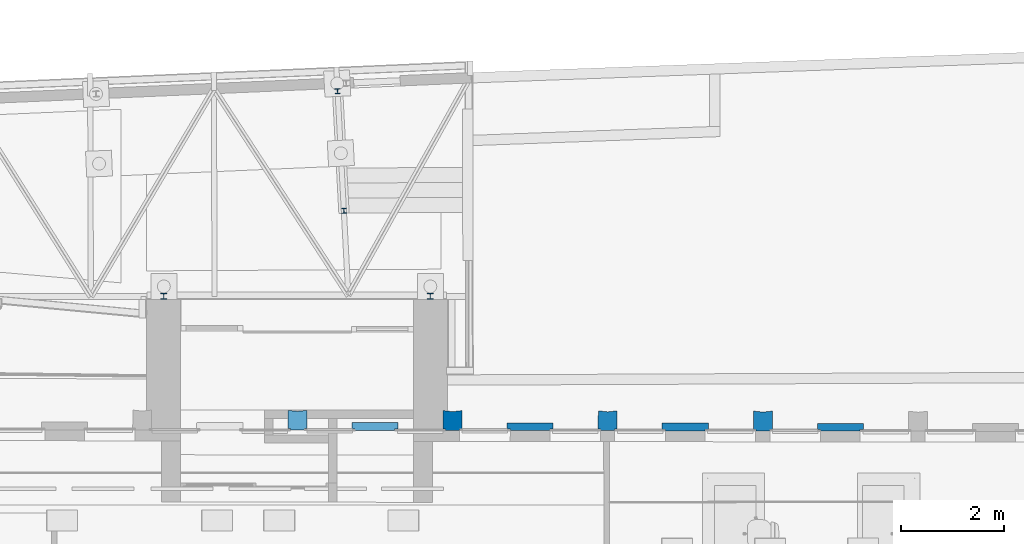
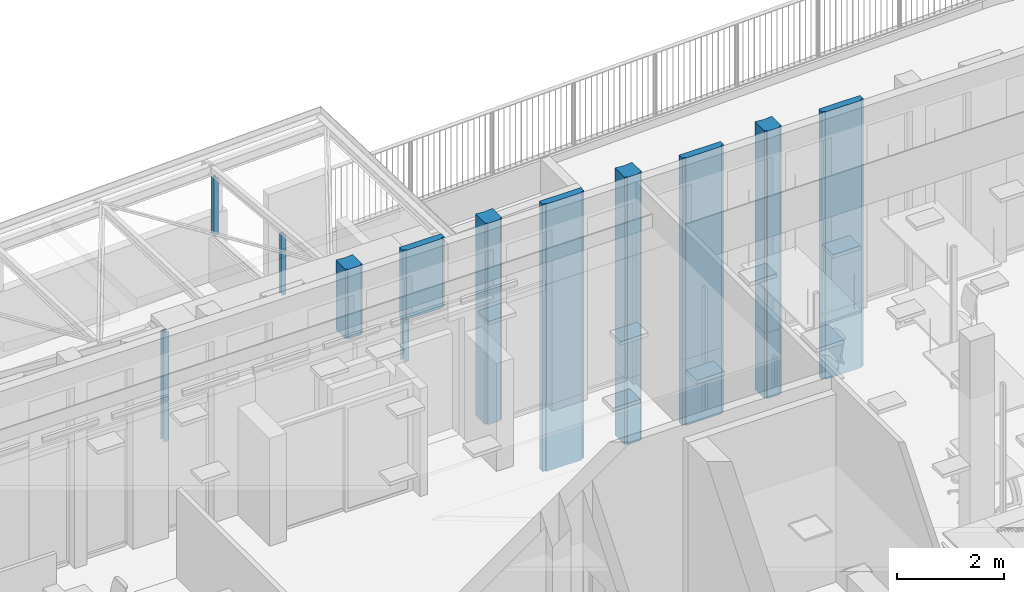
# One storey, part 3 of 128: 17 columns.
"""IFC2X3 building model written with IfcOpenShell, lengths in metres."""

import ifcopenshell
import ifcopenshell.guid

model = None  # the IFC model being written
_history = None  # IfcOwnerHistory: only IFC2X3 demands one
_inside = {}  # id of a spatial element -> (the spatial element, [elements in it])
_under = {}  # id of a project, library or spatial element -> (it, [spatial elements below it])
_declared = {}  # id of a project -> (the project, [libraries it declares])
_typed = {}  # id of a type object -> (the type object, [elements of that type])
_made_of = {}  # id of a material, layer set ... -> (it, [elements and type objects made of it])


def new_model(schema):
    """Start an empty IFC model of exactly this schema.

    Asked for "IFC4X3", IfcOpenShell would pick the latest addendum, in which some entities
    have other attributes; the version numbers below select the first issue.
    IFC2X3 requires an IfcOwnerHistory on every rooted entity: one is made here for all.
    """
    global model, _history
    if schema == "IFC4X3":
        model = ifcopenshell.file(schema_version=(4, 3, 0, 0))
    else:
        model = ifcopenshell.file(schema=schema)
    _inside.clear()
    _under.clear()
    _declared.clear()
    _typed.clear()
    _made_of.clear()
    _history = None
    if model.schema == "IFC2X3":
        org = make("IfcOrganization", Name="unknown")
        user = make(
            "IfcPersonAndOrganization",
            ThePerson=make("IfcPerson", FamilyName="unknown"),
            TheOrganization=org,
        )
        app = make(
            "IfcApplication",
            ApplicationDeveloper=org,
            Version="unknown",
            ApplicationFullName="unknown",
            ApplicationIdentifier="unknown",
        )
        _history = make(
            "IfcOwnerHistory",
            OwningUser=user,
            OwningApplication=app,
            ChangeAction="ADDED",
            CreationDate=0,
        )
    return model


def make(cls, **values):
    """One entity of the class cls with the attributes given. An attribute that is None is left unset."""
    return model.create_entity(
        cls, **{name: value for name, value in values.items() if value is not None}
    )


def entity(cls, *values):
    """Any entity or typed value of the class cls, its attributes in the order of the schema. None: left unset."""
    e = model.create_entity(cls)
    for i, value in enumerate(values):
        if value is not None:
            e[i] = value
    return e


def rooted(cls, **values):
    """An entity with a GlobalId (a new one), such as an element, a storey or a relation."""
    return make(cls, GlobalId=ifcopenshell.guid.new(), OwnerHistory=_history, **values)


def si_unit(unit_type, name, prefix=None):
    """IfcSIUnit, for example si_unit("LENGTHUNIT", "METRE", prefix="MILLI")."""
    return make("IfcSIUnit", UnitType=unit_type, Prefix=prefix, Name=name)


def converted_unit(unit_type, name, factor, base, dimensions=None, offset=None):
    """IfcConversionBasedUnit, such as the inch: factor (a typed value) times the base unit."""
    return make(
        "IfcConversionBasedUnit"
        if offset is None
        else "IfcConversionBasedUnitWithOffset",
        ConversionOffset=offset,
        Dimensions=None
        if dimensions is None
        else entity("IfcDimensionalExponents", *dimensions),
        UnitType=unit_type,
        Name=name,
        ConversionFactor=make(
            "IfcMeasureWithUnit", ValueComponent=factor, UnitComponent=base
        ),
    )


def derived_unit(unit_type, elements):
    """IfcDerivedUnit: a product of units, each with its exponent."""
    return make(
        "IfcDerivedUnit",
        Elements=[
            make("IfcDerivedUnitElement", Unit=unit, Exponent=power)
            for unit, power in elements
        ],
        UnitType=unit_type,
    )


def assignment(units):
    """IfcUnitAssignment: the units of a project."""
    return None if units is None else make("IfcUnitAssignment", Units=units)


def point(xyz):
    """IfcCartesianPoint."""
    return None if xyz is None else make("IfcCartesianPoint", Coordinates=xyz)


def direction(xyz):
    """IfcDirection."""
    return None if xyz is None else make("IfcDirection", DirectionRatios=xyz)


def frame(location, z_axis=None, x_axis=None):
    """IfcAxis2Placement3D, a coordinate frame: its origin and axes. An axis left out is left unset."""
    return make(
        "IfcAxis2Placement3D",
        Location=point(location),
        Axis=direction(z_axis),
        RefDirection=direction(x_axis),
    )


def frame_2d(location, x_axis=None):
    """IfcAxis2Placement2D, a coordinate frame in the plane: its origin and x axis."""
    return make(
        "IfcAxis2Placement2D", Location=point(location), RefDirection=direction(x_axis)
    )


def origin():
    """The frame at (0, 0, 0) with its axes left unset."""
    return frame((0.0, 0.0, 0.0))


def origin_2d_with_axis():
    """The frame at (0, 0) in the plane with the x axis (1, 0) written out."""
    return frame_2d((0.0, 0.0), x_axis=(1.0, 0.0))


def place(relative_to, where):
    """IfcLocalPlacement: puts the frame where relative to a parent placement (None: the world)."""
    return make(
        "IfcLocalPlacement", PlacementRelTo=relative_to, RelativePlacement=where
    )


def context(
    kind, dimensions, precision=None, world=None, true_north=None, identifier=None
):
    """IfcGeometricRepresentationContext, for example the 3D "Model" context."""
    return make(
        "IfcGeometricRepresentationContext",
        ContextIdentifier=identifier,
        ContextType=kind,
        CoordinateSpaceDimension=dimensions,
        Precision=precision,
        WorldCoordinateSystem=world,
        TrueNorth=true_north,
    )


def subcontext(parent, identifier, kind, view, scale=None):
    """IfcGeometricRepresentationSubContext, for example "Body" below "Model"."""
    return make(
        "IfcGeometricRepresentationSubContext",
        ContextIdentifier=identifier,
        ContextType=kind,
        ParentContext=parent,
        TargetScale=scale,
        TargetView=view,
    )


def project(units=None, contexts=None):
    """IfcProject with its units and contexts."""
    return rooted(
        "IfcProject",
        Name="project",
        RepresentationContexts=contexts,
        UnitsInContext=assignment(units),
    )


def spatial(cls, under=None, at=None, **own):
    """A site, building, storey or space (cls), placed at a placement, below another one or the project."""
    s = rooted(cls, ObjectPlacement=at, **own)
    if under is not None:
        _under.setdefault(under.id(), (under, []))[1].append(s)
    return s


def polyline(points):
    """IfcPolyline through the points."""
    return make("IfcPolyline", Points=[point(p) for p in points])


def profile(cls, at=None, kind="AREA", **sizes):
    """A parametric profile (cls). Its sizes go by their IFC names, for example OverallWidth=200.0."""
    return make(cls, ProfileType=kind, Position=at, **sizes)


def i_section(**sizes):
    """IfcIShapeProfileDef."""
    return profile("IfcIShapeProfileDef", **sizes)


def outline(outer, holes=None, kind="AREA"):
    """IfcArbitraryClosedProfileDef: a profile drawn as a closed curve; with holes, ...WithVoids."""
    if holes is None:
        return make("IfcArbitraryClosedProfileDef", ProfileType=kind, OuterCurve=outer)
    return make(
        "IfcArbitraryProfileDefWithVoids",
        ProfileType=kind,
        OuterCurve=outer,
        InnerCurves=holes,
    )


def extrude(swept, where, along, depth):
    """IfcExtrudedAreaSolid: the profile swept, set in the frame where, extruded along a direction by depth."""
    return make(
        "IfcExtrudedAreaSolid",
        SweptArea=swept,
        Position=where,
        ExtrudedDirection=direction(along),
        Depth=depth,
    )


def shape(context_of_items, identifier, shape_type, items):
    """IfcShapeRepresentation: the items that make up one representation, for example the "Body"."""
    return make(
        "IfcShapeRepresentation",
        ContextOfItems=context_of_items,
        RepresentationIdentifier=identifier,
        RepresentationType=shape_type,
        Items=items,
    )


def source(mapping_origin, context_of_items, identifier, shape_type, items):
    """IfcRepresentationMap: a shape defined once, which mapped items show again and again."""
    return make(
        "IfcRepresentationMap",
        MappingOrigin=mapping_origin,
        MappedRepresentation=shape(context_of_items, identifier, shape_type, items),
    )


def transform(
    local_origin,
    x_axis=None,
    y_axis=None,
    z_axis=None,
    scale=None,
    scale2=None,
    scale3=None,
    uniform=True,
):
    """IfcCartesianTransformationOperator3D, or its non-uniform kind. x_axis, y_axis, z_axis: its Axis1, 2, 3."""
    if uniform:
        return make(
            "IfcCartesianTransformationOperator3D",
            Axis1=direction(x_axis),
            Axis2=direction(y_axis),
            LocalOrigin=point(local_origin),
            Scale=scale,
            Axis3=direction(z_axis),
        )
    return make(
        "IfcCartesianTransformationOperator3DnonUniform",
        Axis1=direction(x_axis),
        Axis2=direction(y_axis),
        LocalOrigin=point(local_origin),
        Scale=scale,
        Axis3=direction(z_axis),
        Scale2=scale2,
        Scale3=scale3,
    )


def mapped(mapping_source, mapping_target):
    """IfcMappedItem: shows the shape of a source again, moved by a transform."""
    return make(
        "IfcMappedItem", MappingSource=mapping_source, MappingTarget=mapping_target
    )


def material(Name=None, Category=None):
    """IfcMaterial."""
    return make("IfcMaterial", Name=Name, Category=Category)


def made_of(thing, what):
    """Note that an element or type object is made of a material, layer set ...; save() writes the relation."""
    if what is not None:
        _made_of.setdefault(what.id(), (what, []))[1].append(thing)
    return thing


def type_object(cls, material=None, **own):
    """A type object (cls), such as IfcWallType, which elements share."""
    return made_of(rooted(cls, **own), material)


def type_shapes(of_type, sources):
    """Give a type object the sources (RepresentationMaps) that its elements show as mapped items."""
    of_type.RepresentationMaps = sources


def element(
    cls,
    number,
    at=None,
    inside=None,
    cuts=None,
    type_object=None,
    material=None,
    context=None,
    identifier="Body",
    shape_type=None,
    held_by="IfcProductDefinitionShape",
    body=None,
    shapes=None,
    **own,
):
    """One element of the class cls, such as IfcWall. Its Tag is "e" and its number.

    at: its placement. inside: the storey or other place that contains it. cuts: it is an
    opening in that element (IfcRelVoidsElement). A single representation is given by context,
    identifier, shape_type and body (its items); several are given by shapes. held_by: the class
    of the entity that holds the representations. save() writes the other relations.
    """
    e = rooted(cls, Tag="e%d" % number, ObjectPlacement=at, **own)
    if body is not None:
        shapes = [shape(context, identifier, shape_type, body)]
    if shapes is not None:
        e.Representation = make(held_by, Representations=shapes)
    if inside is not None:
        _inside.setdefault(inside.id(), (inside, []))[1].append(e)
    if cuts is not None:
        rooted(
            "IfcRelVoidsElement", RelatingBuildingElement=cuts, RelatedOpeningElement=e
        )
    if type_object is not None:
        _typed.setdefault(type_object.id(), (type_object, []))[1].append(e)
    return made_of(e, material)


def aggregate(whole, parts):
    """IfcRelAggregates: a whole, such as a stair, and the parts it consists of."""
    return rooted("IfcRelAggregates", RelatingObject=whole, RelatedObjects=parts)


def save(model, path):
    """Write the relations noted so far, then the file.

    IfcRelAggregates (storeys below a building ...), IfcRelContainedInSpatialStructure (elements
    in a storey), IfcRelDefinesByType, IfcRelAssociatesMaterial and IfcRelDeclares: one each for
    every whole, place, type object, material and project.
    """
    for whole, parts in _under.values():
        aggregate(whole, parts)
    for where, things in _inside.values():
        rooted(
            "IfcRelContainedInSpatialStructure",
            RelatedElements=things,
            RelatingStructure=where,
        )
    for kind, things in _typed.values():
        rooted("IfcRelDefinesByType", RelatedObjects=things, RelatingType=kind)
    for what, things in _made_of.values():
        rooted("IfcRelAssociatesMaterial", RelatedObjects=things, RelatingMaterial=what)
    for by, libraries in _declared.values():
        rooted("IfcRelDeclares", RelatingContext=by, RelatedDefinitions=libraries)
    model.write(path)


model = new_model("IFC2X3")

# Units and contexts
model_context = context("Model", 3, precision=1e-05, world=origin(), true_north=direction((6.123031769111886e-17, 1.0)))
body_context = subcontext(model_context, "Body", "Model", "MODEL_VIEW")
ifc_project = project(units=[si_unit("LENGTHUNIT", "METRE"), si_unit("AREAUNIT", "SQUARE_METRE"), converted_unit("PLANEANGLEUNIT", "DEGREE", entity("IfcPlaneAngleMeasure", 0.017453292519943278), si_unit("PLANEANGLEUNIT", "RADIAN"), dimensions=[0, 0, 0, 0, 0, 0, 0]), derived_unit("THERMALTRANSMITTANCEUNIT", [(si_unit("MASSUNIT", "GRAM", prefix="KILO"), 1), (si_unit("THERMODYNAMICTEMPERATUREUNIT", "KELVIN"), -1), (si_unit("TIMEUNIT", "SECOND"), -3)])], contexts=[model_context])

# Site, building, storey
site_placement = place(None, origin())
site = spatial("IfcSite", under=ifc_project, at=site_placement, Name="Default", CompositionType="ELEMENT")
building_placement = place(site_placement, origin())
building = spatial("IfcBuilding", under=site, at=building_placement, CompositionType="ELEMENT")
storey_placement = place(building_placement, origin())
storey = spatial("IfcBuildingStorey", under=building, at=storey_placement, Name="00_RDC CAF", CompositionType="ELEMENT", Elevation=2.4982504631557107e-13)

# Columns
ifc_material_1 = material(Name="STR - Beton")
column_type_1 = type_object("IfcColumnType", Name="Po_Béton_Creusé_Courant:365mm x 385mm", PredefinedType="COLUMN", material=ifc_material_1)
shared_shape_1 = source(origin(), body_context, "Body", "SweptSolid", [
    extrude(outline(polyline([(-0.1824999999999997, 0.10944444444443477), (-0.18250000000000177, -0.24555555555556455), (0.0, -0.22555555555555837), (0.18249999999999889, -0.24555555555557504), (0.182500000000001, 0.10944444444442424), (0.13670000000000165, 0.10944444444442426), (0.13670000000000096, 0.1394444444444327), (-0.1367000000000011, 0.13944444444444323), (-0.13670000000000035, 0.10944444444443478), (-0.1824999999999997, 0.10944444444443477)])), frame((36.749476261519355, 144.26082270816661, 0.0), z_axis=(0.0, 0.0, -1.0), x_axis=(0.9999987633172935, -0.0015726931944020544, 0.0)), (0.0, 0.0, -1.0), 4.578000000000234),
])
type_shapes(column_type_1, [shared_shape_1])
column_1_placement = place(storey_placement, origin())
element("IfcColumn", 1, at=column_1_placement, inside=storey, type_object=column_type_1, material=ifc_material_1, Name="Po_Béton_Creusé_Courant:365mm x 385mm", ObjectType="Po_Béton_Creusé_Courant:365mm x 385mm", context=body_context, shape_type="MappedRepresentation", body=[
    mapped(shared_shape_1, transform((0.0, 0.0, 0.0), scale=1.0)),
])
column_type_2 = type_object("IfcColumnType", Name="Po_Béton_Creusé_Courant:365mm x 385mm", PredefinedType="COLUMN", material=ifc_material_1)
shared_shape_2 = source(origin(), body_context, "Body", "SweptSolid", [
    extrude(outline(polyline([(-0.18249999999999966, 0.10944444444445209), (-0.18250000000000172, -0.24555555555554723), (0.0, -0.22555555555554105), (0.1824999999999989, -0.24555555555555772), (0.18250000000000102, 0.10944444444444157), (0.1367000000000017, 0.10944444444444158), (0.13670000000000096, 0.13944444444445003), (-0.13670000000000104, 0.13944444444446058), (-0.13670000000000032, 0.1094444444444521), (-0.18249999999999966, 0.10944444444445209)])), frame((33.74948289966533, 144.26554078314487, 0.0), z_axis=(0.0, 0.0, -1.0), x_axis=(0.9999987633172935, -0.0015726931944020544, 0.0)), (0.0, 0.0, -1.0), 4.578000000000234),
])
type_shapes(column_type_2, [shared_shape_2])
column_2_placement = place(storey_placement, origin())
element("IfcColumn", 2, at=column_2_placement, inside=storey, type_object=column_type_2, material=ifc_material_1, Name="Po_Béton_Creusé_Courant:365mm x 385mm", ObjectType="Po_Béton_Creusé_Courant:365mm x 385mm", context=body_context, shape_type="MappedRepresentation", body=[
    mapped(shared_shape_2, transform((0.0, 0.0, 0.0), scale=1.0)),
])
column_type_3 = type_object("IfcColumnType", Name="Po_Béton_Creusé_Courant:365mm x 385mm", PredefinedType="COLUMN", material=ifc_material_1)
shared_shape_3 = source(origin(), body_context, "Body", "SweptSolid", [
    extrude(outline(polyline([(-0.16452892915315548, 0.11826038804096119), (-0.16452892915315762, -0.23673961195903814), (-0.08116537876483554, -0.22760388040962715), (0.01797107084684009, -0.21673961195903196), (0.20047107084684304, -0.23673961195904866), (0.20047107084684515, 0.11826038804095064), (0.1546710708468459, 0.11826038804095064), (0.15467107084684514, 0.14826038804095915), (-0.08057425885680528, 0.14826038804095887), (-0.1187289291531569, 0.14826038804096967), (-0.11872892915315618, 0.11826038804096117), (-0.16452892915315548, 0.11826038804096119)])), frame((30.731532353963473, 144.2791030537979, 0.0), z_axis=(0.0, 0.0, -1.0), x_axis=(0.9999987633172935, -0.0015726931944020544, 0.0)), (0.0, 0.0, -1.0), 4.578000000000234),
])
type_shapes(column_type_3, [shared_shape_3])
column_3_placement = place(storey_placement, origin())
element("IfcColumn", 3, at=column_3_placement, inside=storey, type_object=column_type_3, material=ifc_material_1, Name="Po_Béton_Creusé_Courant:365mm x 385mm", ObjectType="Po_Béton_Creusé_Courant:365mm x 385mm", context=body_context, shape_type="MappedRepresentation", body=[
    mapped(shared_shape_3, transform((0.0, 0.0, 0.0), scale=1.0)),
])
column_type_4 = type_object("IfcColumnType", Name="Po_Béton_Creusé_Courant:365mm x 385mm", PredefinedType="COLUMN", material=ifc_material_1)
shared_shape_4 = source(origin(), body_context, "Body", "SweptSolid", [
    extrude(outline(polyline([(-0.1824999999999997, 0.10944444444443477), (-0.18250000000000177, -0.24555555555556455), (0.0, -0.22555555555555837), (0.1824999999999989, -0.24555555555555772), (0.182500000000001, 0.10944444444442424), (0.13670000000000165, 0.10944444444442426), (0.13670000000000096, 0.1394444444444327), (-0.1367000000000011, 0.13944444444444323), (-0.13670000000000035, 0.10944444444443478), (-0.1824999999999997, 0.10944444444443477)])), frame((27.74949617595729, 144.27497693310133, 3.0), z_axis=(0.0, 0.0, -1.0), x_axis=(0.9999987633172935, -0.0015726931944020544, 0.0)), (0.0, 0.0, -1.0), 1.5780000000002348),
])
type_shapes(column_type_4, [shared_shape_4])
column_4_placement = place(storey_placement, origin())
element("IfcColumn", 4, at=column_4_placement, inside=storey, type_object=column_type_4, material=ifc_material_1, Name="Po_Béton_Creusé_Courant:365mm x 385mm", ObjectType="Po_Béton_Creusé_Courant:365mm x 385mm", context=body_context, shape_type="MappedRepresentation", body=[
    mapped(shared_shape_4, transform((0.0, 0.0, 0.0), scale=1.0)),
])
ifc_material_2 = material(Name="<Unnamed>")
column_type_5 = type_object("IfcColumnType", Name="Po_Béton_T:365mm x 385mm", PredefinedType="COLUMN", material=ifc_material_2)
shared_shape_5 = source(origin(), body_context, "Body", "SweptSolid", [
    extrude(outline(polyline([(-0.4450000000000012, 0.02250000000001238), (-0.4450000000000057, -0.09749999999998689), (0.44499999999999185, -0.0975000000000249), (0.4450000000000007, 0.022499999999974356), (0.38319999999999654, 0.022499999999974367), (0.38320000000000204, 0.05249999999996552), (-0.38320000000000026, 0.05250000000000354), (-0.3832000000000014, 0.02250000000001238), (-0.4450000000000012, 0.02250000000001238)])), frame((32.24922506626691, 144.18095567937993, 0.0), z_axis=(0.0, 0.0, -1.0), x_axis=(0.9999987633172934, -0.001572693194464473, 0.0)), (0.0, 0.0, -1.0), 4.578000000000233),
])
type_shapes(column_type_5, [shared_shape_5])
column_5_placement = place(storey_placement, origin())
element("IfcColumn", 5, at=column_5_placement, inside=storey, type_object=column_type_5, material=ifc_material_2, Name="Po_Béton_T:365mm x 385mm", ObjectType="Po_Béton_T:365mm x 385mm", context=body_context, shape_type="MappedRepresentation", body=[
    mapped(shared_shape_5, transform((0.0, 0.0, 0.0), scale=1.0)),
])
column_type_6 = type_object("IfcColumnType", Name="Po_Béton_T:365mm x 385mm", PredefinedType="COLUMN", material=ifc_material_2)
shared_shape_6 = source(origin(), body_context, "Body", "SweptSolid", [
    extrude(outline(polyline([(-0.4450000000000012, 0.02250000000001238), (-0.4450000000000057, -0.09749999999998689), (0.44499999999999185, -0.0975000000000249), (0.4450000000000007, 0.022499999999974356), (0.38319999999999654, 0.022499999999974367), (0.38320000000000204, 0.05249999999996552), (-0.38320000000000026, 0.05250000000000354), (-0.3832000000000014, 0.02250000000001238), (-0.4450000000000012, 0.02250000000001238)])), frame((35.24921842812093, 144.1762376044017, 0.0), z_axis=(0.0, 0.0, -1.0), x_axis=(0.9999987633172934, -0.001572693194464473, 0.0)), (0.0, 0.0, -1.0), 4.578000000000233),
])
type_shapes(column_type_6, [shared_shape_6])
column_6_placement = place(storey_placement, origin())
element("IfcColumn", 6, at=column_6_placement, inside=storey, type_object=column_type_6, material=ifc_material_2, Name="Po_Béton_T:365mm x 385mm", ObjectType="Po_Béton_T:365mm x 385mm", context=body_context, shape_type="MappedRepresentation", body=[
    mapped(shared_shape_6, transform((0.0, 0.0, 0.0), scale=1.0)),
])
column_type_7 = type_object("IfcColumnType", Name="Po_Béton_T:365mm x 385mm", PredefinedType="COLUMN", material=ifc_material_2)
shared_shape_7 = source(origin(), body_context, "Body", "SweptSolid", [
    extrude(outline(polyline([(-0.44499999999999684, 0.0225000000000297), (-0.4450000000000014, -0.09749999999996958), (0.4449999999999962, -0.0975000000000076), (0.445000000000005, 0.02249999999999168), (0.38320000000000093, 0.022499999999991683), (0.38320000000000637, 0.05249999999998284), (-0.38319999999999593, 0.052500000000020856), (-0.383199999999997, 0.0225000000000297), (-0.44499999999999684, 0.0225000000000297)])), frame((38.24921178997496, 144.17151952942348, 0.0), z_axis=(0.0, 0.0, -1.0), x_axis=(0.9999987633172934, -0.001572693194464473, 0.0)), (0.0, 0.0, -1.0), 4.578000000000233),
])
type_shapes(column_type_7, [shared_shape_7])
column_7_placement = place(storey_placement, origin())
element("IfcColumn", 7, at=column_7_placement, inside=storey, type_object=column_type_7, material=ifc_material_2, Name="Po_Béton_T:365mm x 385mm", ObjectType="Po_Béton_T:365mm x 385mm", context=body_context, shape_type="MappedRepresentation", body=[
    mapped(shared_shape_7, transform((0.0, 0.0, 0.0), scale=1.0)),
])
column_type_8 = type_object("IfcColumnType", Name="Po_Béton_T:365mm x 385mm", PredefinedType="COLUMN", material=ifc_material_2)
shared_shape_8 = source(origin(), body_context, "Body", "SweptSolid", [
    extrude(outline(polyline([(-0.44499999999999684, 0.0225000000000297), (-0.4450000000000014, -0.09749999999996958), (0.4449999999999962, -0.09750000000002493), (0.445000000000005, 0.022499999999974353), (0.38320000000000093, 0.022499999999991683), (0.38320000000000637, 0.05249999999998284), (-0.38319999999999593, 0.052500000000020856), (-0.383199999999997, 0.0225000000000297), (-0.44499999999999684, 0.0225000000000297)])), frame((29.24923170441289, 144.1856737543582, 3.0), z_axis=(0.0, 0.0, -1.0), x_axis=(0.9999987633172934, -0.001572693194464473, 0.0)), (0.0, 0.0, -1.0), 1.577999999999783),
])
type_shapes(column_type_8, [shared_shape_8])
column_8_placement = place(storey_placement, origin())
element("IfcColumn", 8, at=column_8_placement, inside=storey, type_object=column_type_8, material=ifc_material_2, Name="Po_Béton_T:365mm x 385mm", ObjectType="Po_Béton_T:365mm x 385mm", context=body_context, shape_type="MappedRepresentation", body=[
    mapped(shared_shape_8, transform((0.0, 0.0, 0.0), scale=1.0)),
])
column_type_9 = type_object("IfcColumnType", Name="Po_Béton_Creusé_Courant:365mm x 385mm", PredefinedType="COLUMN", material=ifc_material_1)
shared_shape_9 = source(origin(), body_context, "Body", "SweptSolid", [
    extrude(outline(polyline([(-0.1824999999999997, 0.10944444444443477), (-0.18250000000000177, -0.24555555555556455), (0.0, -0.22555555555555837), (0.1824999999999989, -0.24555555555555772), (0.182500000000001, 0.10944444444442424), (0.13670000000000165, 0.10944444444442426), (0.13670000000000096, 0.1394444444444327), (-0.1367000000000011, 0.13944444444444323), (-0.13670000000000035, 0.10944444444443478), (-0.1824999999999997, 0.10944444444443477)])), frame((36.749476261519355, 144.26082270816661, -1.4999999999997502), z_axis=(0.0, 0.0, -1.0), x_axis=(0.9999987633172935, -0.0015726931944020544, 0.0)), (0.0, 0.0, -1.0), 1.4999999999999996),
])
type_shapes(column_type_9, [shared_shape_9])
column_9_placement = place(storey_placement, origin())
element("IfcColumn", 9, at=column_9_placement, inside=storey, type_object=column_type_9, material=ifc_material_1, Name="Po_Béton_Creusé_Courant:365mm x 385mm", ObjectType="Po_Béton_Creusé_Courant:365mm x 385mm", context=body_context, shape_type="MappedRepresentation", body=[
    mapped(shared_shape_9, transform((0.0, 0.0, 0.0), scale=1.0)),
])
column_type_10 = type_object("IfcColumnType", Name="Po_Béton_Creusé_Courant:365mm x 385mm", PredefinedType="COLUMN", material=ifc_material_1)
shared_shape_10 = source(origin(), body_context, "Body", "SweptSolid", [
    extrude(outline(polyline([(-0.18249999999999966, 0.10944444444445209), (-0.18250000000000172, -0.24555555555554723), (0.0, -0.22555555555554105), (0.1824999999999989, -0.24555555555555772), (0.18250000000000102, 0.10944444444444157), (0.1367000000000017, 0.10944444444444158), (0.13670000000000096, 0.13944444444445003), (-0.13670000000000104, 0.13944444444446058), (-0.13670000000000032, 0.1094444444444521), (-0.18249999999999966, 0.10944444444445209)])), frame((33.74948289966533, 144.26554078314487, -1.4999999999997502), z_axis=(0.0, 0.0, -1.0), x_axis=(0.9999987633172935, -0.0015726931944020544, 0.0)), (0.0, 0.0, -1.0), 1.4999999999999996),
])
type_shapes(column_type_10, [shared_shape_10])
column_10_placement = place(storey_placement, origin())
element("IfcColumn", 10, at=column_10_placement, inside=storey, type_object=column_type_10, material=ifc_material_1, Name="Po_Béton_Creusé_Courant:365mm x 385mm", ObjectType="Po_Béton_Creusé_Courant:365mm x 385mm", context=body_context, shape_type="MappedRepresentation", body=[
    mapped(shared_shape_10, transform((0.0, 0.0, 0.0), scale=1.0)),
])
column_type_11 = type_object("IfcColumnType", Name="Po_Béton_T:365mm x 385mm", PredefinedType="COLUMN", material=ifc_material_2)
shared_shape_11 = source(origin(), body_context, "Body", "SweptSolid", [
    extrude(outline(polyline([(-0.4450000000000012, 0.02250000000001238), (-0.4450000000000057, -0.09749999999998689), (0.44499999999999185, -0.09750000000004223), (0.4450000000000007, 0.02249999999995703), (0.38319999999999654, 0.022499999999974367), (0.38320000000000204, 0.05249999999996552), (-0.38320000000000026, 0.05250000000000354), (-0.3832000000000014, 0.02250000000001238), (-0.4450000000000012, 0.02250000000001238)])), frame((32.24922506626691, 144.18095567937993, -1.4999999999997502), z_axis=(0.0, 0.0, -1.0), x_axis=(0.9999987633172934, -0.001572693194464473, 0.0)), (0.0, 0.0, -1.0), 1.4999999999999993),
])
type_shapes(column_type_11, [shared_shape_11])
column_11_placement = place(storey_placement, origin())
element("IfcColumn", 11, at=column_11_placement, inside=storey, type_object=column_type_11, material=ifc_material_2, Name="Po_Béton_T:365mm x 385mm", ObjectType="Po_Béton_T:365mm x 385mm", context=body_context, shape_type="MappedRepresentation", body=[
    mapped(shared_shape_11, transform((0.0, 0.0, 0.0), scale=1.0)),
])
column_type_12 = type_object("IfcColumnType", Name="Po_Béton_T:365mm x 385mm", PredefinedType="COLUMN", material=ifc_material_2)
shared_shape_12 = source(origin(), body_context, "Body", "SweptSolid", [
    extrude(outline(polyline([(-0.4450000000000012, 0.02250000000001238), (-0.4450000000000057, -0.09749999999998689), (0.44499999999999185, -0.09750000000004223), (0.4450000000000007, 0.02249999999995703), (0.38319999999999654, 0.022499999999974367), (0.38320000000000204, 0.05249999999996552), (-0.38320000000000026, 0.05250000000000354), (-0.3832000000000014, 0.02250000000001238), (-0.4450000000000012, 0.02250000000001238)])), frame((35.24921842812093, 144.1762376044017, -1.4999999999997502), z_axis=(0.0, 0.0, -1.0), x_axis=(0.9999987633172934, -0.001572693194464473, 0.0)), (0.0, 0.0, -1.0), 1.4999999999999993),
])
type_shapes(column_type_12, [shared_shape_12])
column_12_placement = place(storey_placement, origin())
element("IfcColumn", 12, at=column_12_placement, inside=storey, type_object=column_type_12, material=ifc_material_2, Name="Po_Béton_T:365mm x 385mm", ObjectType="Po_Béton_T:365mm x 385mm", context=body_context, shape_type="MappedRepresentation", body=[
    mapped(shared_shape_12, transform((0.0, 0.0, 0.0), scale=1.0)),
])
column_type_13 = type_object("IfcColumnType", Name="Po_Béton_T:365mm x 385mm", PredefinedType="COLUMN", material=ifc_material_2)
shared_shape_13 = source(origin(), body_context, "Body", "SweptSolid", [
    extrude(outline(polyline([(-0.44499999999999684, 0.0225000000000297), (-0.4450000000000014, -0.09749999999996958), (0.4449999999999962, -0.09750000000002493), (0.445000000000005, 0.022499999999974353), (0.38320000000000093, 0.022499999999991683), (0.38320000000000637, 0.05249999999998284), (-0.38319999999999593, 0.052500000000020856), (-0.383199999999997, 0.0225000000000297), (-0.44499999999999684, 0.0225000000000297)])), frame((38.24921178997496, 144.17151952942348, -1.4999999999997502), z_axis=(0.0, 0.0, -1.0), x_axis=(0.9999987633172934, -0.001572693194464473, 0.0)), (0.0, 0.0, -1.0), 1.4999999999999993),
])
type_shapes(column_type_13, [shared_shape_13])
column_13_placement = place(storey_placement, origin())
element("IfcColumn", 13, at=column_13_placement, inside=storey, type_object=column_type_13, material=ifc_material_2, Name="Po_Béton_T:365mm x 385mm", ObjectType="Po_Béton_T:365mm x 385mm", context=body_context, shape_type="MappedRepresentation", body=[
    mapped(shared_shape_13, transform((0.0, 0.0, 0.0), scale=1.0)),
])
ifc_material_3 = material(Name="Acier structurel - S235")
column_type_14 = type_object("IfcColumnType", Name="Poteau HE-A:HEA120", PredefinedType="COLUMN", material=ifc_material_3)
shared_shape_14 = source(origin(), body_context, "Body", "SweptSolid", [
    extrude(i_section(OverallWidth=0.1199999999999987, OverallDepth=0.11399999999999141, WebThickness=0.005000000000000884, FlangeThickness=0.007999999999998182, FilletRadius=0.012, at=origin_2d_with_axis()), frame((25.1648723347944, 146.7229694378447, 0.0)), (0.0, 0.0, 1.0), 2.4781714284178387),
])
type_shapes(column_type_14, [shared_shape_14])
column_14_placement = place(storey_placement, origin())
element("IfcColumn", 14, at=column_14_placement, inside=storey, type_object=column_type_14, material=ifc_material_3, Name="Poteau HE-A:HEA120", ObjectType="Poteau HE-A:HEA120", context=body_context, shape_type="MappedRepresentation", body=[
    mapped(shared_shape_14, transform((0.0, 0.0, 0.0), scale=1.0)),
])
column_type_15 = type_object("IfcColumnType", Name="Poteau HE-A:HEA120", PredefinedType="COLUMN", material=ifc_material_3)
shared_shape_15 = source(origin(), body_context, "Body", "SweptSolid", [
    extrude(i_section(OverallWidth=0.1199999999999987, OverallDepth=0.11399999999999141, WebThickness=0.005000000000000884, FlangeThickness=0.007999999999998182, FilletRadius=0.012, at=frame_2d((0.0, -1.732641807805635e-14), x_axis=(1.0, 0.0))), frame((30.3207250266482, 146.7229694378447, 0.0)), (0.0, 0.0, 1.0), 2.4781714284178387),
])
type_shapes(column_type_15, [shared_shape_15])
column_15_placement = place(storey_placement, origin())
element("IfcColumn", 15, at=column_15_placement, inside=storey, type_object=column_type_15, material=ifc_material_3, Name="Poteau HE-A:HEA120", ObjectType="Poteau HE-A:HEA120", context=body_context, shape_type="MappedRepresentation", body=[
    mapped(shared_shape_15, transform((0.0, 0.0, 0.0), scale=1.0)),
])
column_type_16 = type_object("IfcColumnType", Name="Poteau HE-A:HEA100", PredefinedType="COLUMN", material=ifc_material_3)
shared_shape_16 = source(origin(), body_context, "Body", "SweptSolid", [
    extrude(i_section(OverallWidth=0.10000000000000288, OverallDepth=0.09600000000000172, WebThickness=0.004999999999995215, FlangeThickness=0.00799999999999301, FilletRadius=0.012, at=frame_2d((-1.797173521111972e-15, -3.460426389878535e-14), x_axis=(1.0, 0.0))), frame((28.52762599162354, 150.6919402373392, 1.0960000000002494), z_axis=(0.0, 0.0, 1.0), x_axis=(-0.9986549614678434, -0.05184850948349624, 0.0)), (0.0, 0.0, 1.0), 1.2975499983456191),
])
type_shapes(column_type_16, [shared_shape_16])
column_16_placement = place(storey_placement, origin())
element("IfcColumn", 16, at=column_16_placement, inside=storey, type_object=column_type_16, material=ifc_material_3, Name="Poteau HE-A:HEA100", ObjectType="Poteau HE-A:HEA100", context=body_context, shape_type="MappedRepresentation", body=[
    mapped(shared_shape_16, transform((0.0, 0.0, 0.0), scale=1.0)),
])
column_type_17 = type_object("IfcColumnType", Name="Poteau HE-A:HEA100", PredefinedType="COLUMN", material=ifc_material_3)
shared_shape_17 = source(origin(), body_context, "Body", "SweptSolid", [
    extrude(i_section(OverallWidth=0.09999999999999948, OverallDepth=0.0960000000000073, WebThickness=0.005000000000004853, FlangeThickness=0.008000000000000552, FilletRadius=0.012, at=frame_2d((2.1614654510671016e-15, -1.0755285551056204e-16), x_axis=(1.0, 0.0))), frame((28.64893153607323, 148.3765761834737, 1.0960000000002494), z_axis=(0.0, 0.0, 1.0), x_axis=(-0.9986305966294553, -0.052315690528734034, 0.0)), (0.0, 0.0, 1.0), 1.369327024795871),
])
type_shapes(column_type_17, [shared_shape_17])
column_17_placement = place(storey_placement, origin())
element("IfcColumn", 17, at=column_17_placement, inside=storey, type_object=column_type_17, material=ifc_material_3, Name="Poteau HE-A:HEA100", ObjectType="Poteau HE-A:HEA100", context=body_context, shape_type="MappedRepresentation", body=[
    mapped(shared_shape_17, transform((0.0, 0.0, 0.0), scale=1.0)),
])

save(model, "model.ifc")
